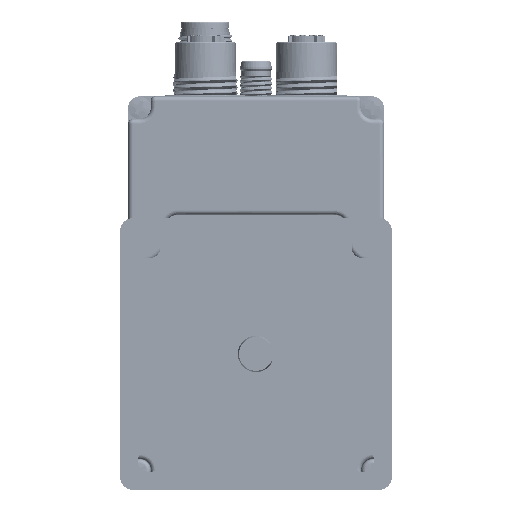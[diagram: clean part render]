
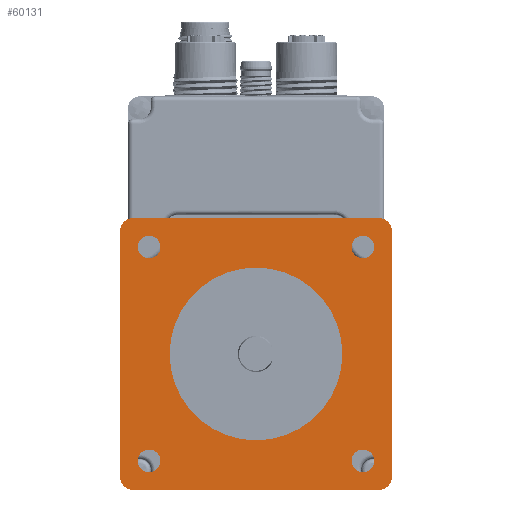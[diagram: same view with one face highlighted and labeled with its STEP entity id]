
A CAD part, front view. The second image highlights one B-rep face of the part: STEP entity #60131.
In plain terms, the highlighted planar face has unit normal (0, -1, 0).
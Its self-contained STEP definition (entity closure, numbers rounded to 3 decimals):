
#6149=CIRCLE('',#77688,2.5);
#6151=CIRCLE('',#77691,19.05);
#6159=CIRCLE('',#77715,2.5);
#6168=CIRCLE('',#77731,2.5);
#6181=CIRCLE('',#77755,2.5);
#6193=CIRCLE('',#77778,3.);
#6194=CIRCLE('',#77781,3.);
#6195=CIRCLE('',#77784,3.);
#6196=CIRCLE('',#77787,3.);
#23440=ORIENTED_EDGE('',*,*,#32176,.F.);
#23441=ORIENTED_EDGE('',*,*,#32229,.F.);
#23442=ORIENTED_EDGE('',*,*,#32208,.F.);
#23443=ORIENTED_EDGE('',*,*,#32263,.F.);
#23444=ORIENTED_EDGE('',*,*,#32174,.F.);
#23445=ORIENTED_EDGE('',*,*,#32307,.T.);
#23446=ORIENTED_EDGE('',*,*,#32306,.F.);
#23447=ORIENTED_EDGE('',*,*,#32303,.T.);
#23448=ORIENTED_EDGE('',*,*,#32302,.F.);
#23449=ORIENTED_EDGE('',*,*,#32299,.T.);
#23450=ORIENTED_EDGE('',*,*,#32298,.F.);
#23451=ORIENTED_EDGE('',*,*,#32294,.T.);
#23452=ORIENTED_EDGE('',*,*,#32309,.F.);
#32174=EDGE_CURVE('',#38208,#38208,#6149,.T.);
#32176=EDGE_CURVE('',#38210,#38210,#6151,.T.);
#32208=EDGE_CURVE('',#38234,#38234,#6159,.T.);
#32229=EDGE_CURVE('',#38250,#38250,#6168,.T.);
#32263=EDGE_CURVE('',#38276,#38276,#6181,.T.);
#32294=EDGE_CURVE('',#38296,#38297,#42740,.T.);
#32298=EDGE_CURVE('',#38296,#38298,#6193,.T.);
#32299=EDGE_CURVE('',#38299,#38298,#42744,.T.);
#32302=EDGE_CURVE('',#38299,#38300,#6194,.T.);
#32303=EDGE_CURVE('',#38301,#38300,#42747,.T.);
#32306=EDGE_CURVE('',#38301,#38302,#6195,.T.);
#32307=EDGE_CURVE('',#38303,#38302,#42750,.T.);
#32309=EDGE_CURVE('',#38303,#38297,#6196,.T.);
#38208=VERTEX_POINT('',#147689);
#38210=VERTEX_POINT('',#147694);
#38234=VERTEX_POINT('',#147766);
#38250=VERTEX_POINT('',#147810);
#38276=VERTEX_POINT('',#147881);
#38296=VERTEX_POINT('',#147942);
#38297=VERTEX_POINT('',#147943);
#38298=VERTEX_POINT('',#147948);
#38299=VERTEX_POINT('',#147952);
#38300=VERTEX_POINT('',#147956);
#38301=VERTEX_POINT('',#147960);
#38302=VERTEX_POINT('',#147964);
#38303=VERTEX_POINT('',#147968);
#42740=LINE('',#147941,#47175);
#42744=LINE('',#147951,#47179);
#42747=LINE('',#147959,#47182);
#42750=LINE('',#147967,#47185);
#47175=VECTOR('',#90845,1000.);
#47179=VECTOR('',#90855,1000.);
#47182=VECTOR('',#90864,1000.);
#47185=VECTOR('',#90873,1000.);
#51154=EDGE_LOOP('',(#23440));
#51155=EDGE_LOOP('',(#23441));
#51156=EDGE_LOOP('',(#23442));
#51157=EDGE_LOOP('',(#23443));
#51158=EDGE_LOOP('',(#23444));
#51159=EDGE_LOOP('',(#23445,#23446,#23447,#23448,#23449,#23450,#23451,#23452));
#55140=FACE_BOUND('',#51154,.T.);
#55141=FACE_BOUND('',#51155,.T.);
#55142=FACE_BOUND('',#51156,.T.);
#55143=FACE_BOUND('',#51157,.T.);
#55144=FACE_BOUND('',#51158,.T.);
#55145=FACE_BOUND('',#51159,.T.);
#56810=PLANE('',#77788);
#60131=ADVANCED_FACE('',(#55140,#55141,#55142,#55143,#55144,#55145),#56810,
 .F.);
#77688=AXIS2_PLACEMENT_3D('',#147688,#90591,#90592);
#77691=AXIS2_PLACEMENT_3D('',#147693,#90597,#90598);
#77715=AXIS2_PLACEMENT_3D('',#147765,#90669,#90670);
#77731=AXIS2_PLACEMENT_3D('',#147809,#90713,#90714);
#77755=AXIS2_PLACEMENT_3D('',#147880,#90782,#90783);
#77778=AXIS2_PLACEMENT_3D('',#147949,#90851,#90852);
#77781=AXIS2_PLACEMENT_3D('',#147957,#90860,#90861);
#77784=AXIS2_PLACEMENT_3D('',#147965,#90869,#90870);
#77787=AXIS2_PLACEMENT_3D('',#147971,#90877,#90878);
#77788=AXIS2_PLACEMENT_3D('',#147972,#90879,#90880);
#90591=DIRECTION('',(0.,-1.,0.));
#90592=DIRECTION('',(1.,0.,0.));
#90597=DIRECTION('',(0.,-1.,0.));
#90598=DIRECTION('',(1.,0.,0.));
#90669=DIRECTION('',(0.,-1.,0.));
#90670=DIRECTION('',(1.,0.,0.));
#90713=DIRECTION('',(0.,-1.,0.));
#90714=DIRECTION('',(1.,0.,0.));
#90782=DIRECTION('',(0.,-1.,0.));
#90783=DIRECTION('',(1.,0.,0.));
#90845=DIRECTION('',(1.,0.,0.));
#90851=DIRECTION('',(0.,1.,0.));
#90852=DIRECTION('',(0.,0.,-1.));
#90855=DIRECTION('',(0.,0.,-1.));
#90860=DIRECTION('',(0.,1.,0.));
#90861=DIRECTION('',(-1.,0.,0.));
#90864=DIRECTION('',(-1.,0.,0.));
#90869=DIRECTION('',(0.,1.,0.));
#90870=DIRECTION('',(0.,0.,1.));
#90873=DIRECTION('',(0.,0.,1.));
#90877=DIRECTION('',(0.,1.,0.));
#90878=DIRECTION('',(1.,0.,0.));
#90879=DIRECTION('',(0.,1.,0.));
#90880=DIRECTION('',(1.,0.,0.));
#147688=CARTESIAN_POINT('',(23.57,0.,-23.57));
#147689=CARTESIAN_POINT('',(26.07,0.,-23.57));
#147693=CARTESIAN_POINT('',(0.,0.,0.));
#147694=CARTESIAN_POINT('',(19.05,0.,0.));
#147765=CARTESIAN_POINT('',(-23.57,0.,23.57));
#147766=CARTESIAN_POINT('',(-21.07,0.,23.57));
#147809=CARTESIAN_POINT('',(23.57,0.,23.57));
#147810=CARTESIAN_POINT('',(26.07,0.,23.57));
#147880=CARTESIAN_POINT('',(-23.57,0.,-23.57));
#147881=CARTESIAN_POINT('',(-21.07,0.,-23.57));
#147941=CARTESIAN_POINT('',(-27.,0.,-30.));
#147942=CARTESIAN_POINT('',(-27.,0.,-30.));
#147943=CARTESIAN_POINT('',(27.,0.,-30.));
#147948=CARTESIAN_POINT('',(-30.,0.,-27.));
#147949=CARTESIAN_POINT('',(-27.,0.,-27.));
#147951=CARTESIAN_POINT('',(-30.,0.,27.));
#147952=CARTESIAN_POINT('',(-30.,0.,27.));
#147956=CARTESIAN_POINT('',(-27.,0.,30.));
#147957=CARTESIAN_POINT('',(-27.,0.,27.));
#147959=CARTESIAN_POINT('',(27.,0.,30.));
#147960=CARTESIAN_POINT('',(27.,0.,30.));
#147964=CARTESIAN_POINT('',(30.,0.,27.));
#147965=CARTESIAN_POINT('',(27.,0.,27.));
#147967=CARTESIAN_POINT('',(30.,0.,-27.));
#147968=CARTESIAN_POINT('',(30.,0.,-27.));
#147971=CARTESIAN_POINT('',(27.,0.,-27.));
#147972=CARTESIAN_POINT('',(0.,0.,0.));
